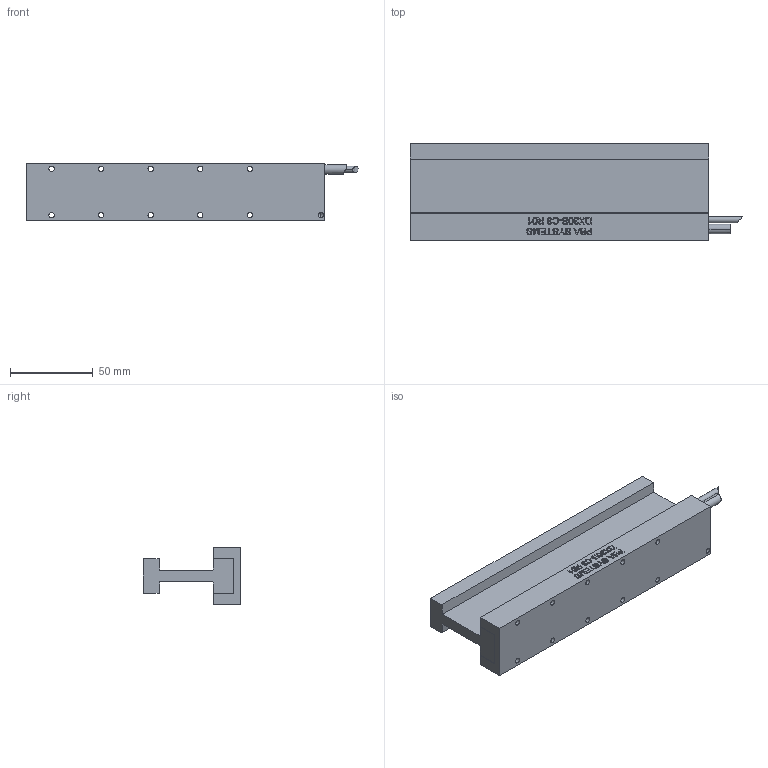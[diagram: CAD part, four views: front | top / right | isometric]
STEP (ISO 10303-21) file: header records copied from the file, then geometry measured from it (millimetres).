
FILE_DESCRIPTION (( 'STEP AP203' ), '1' );
FILE_NAME ('DX30B-C3-000.STEP', '2015-05-28T01:58:37', ( 'PBAsystems' ), ( '' ), 'SwSTEP 2.0', 'SolidWorks 2013', '' );
FILE_SCHEMA (( 'CONFIG_CONTROL_DESIGN' ));
Length unit declared in the file: millimetre
Products named in the file (5): DX30B-C3-000; DX30B-CX-002_C3; CBL_MTR_PWR_SS_7C2C_SA (#2936-1); CBL_MTR_HALL_SS_5C_SA (#2935-1); DX30B-C3-001_CUSTOMER C3
Assembly tree (4 placements, depth 2):
  DX30B-C3-000
    DX30B-CX-002_C3
    CBL_MTR_PWR_SS_7C2C_SA (#2936-1)
    CBL_MTR_HALL_SS_5C_SA (#2935-1)
    DX30B-C3-001_CUSTOMER C3
Bounding box: 201 x 58.8 x 35 mm (x, y, z)
Volume: 179967.8 mm3; surface area: 59519.9 mm2
Topology: 4 solids, 4 shells, 690 faces, 1855 edges, 1235 vertices
Faces by surface type: plane 353, bspline 306, cylinder 29, cone 2
Entity records: 37892 total; most frequent: CARTESIAN_POINT 22093, ORIENTED_EDGE 3706, DIRECTION 2077, EDGE_CURVE 1853, VERTEX_POINT 1235, VECTOR 1187, LINE 1187, EDGE_LOOP 774
